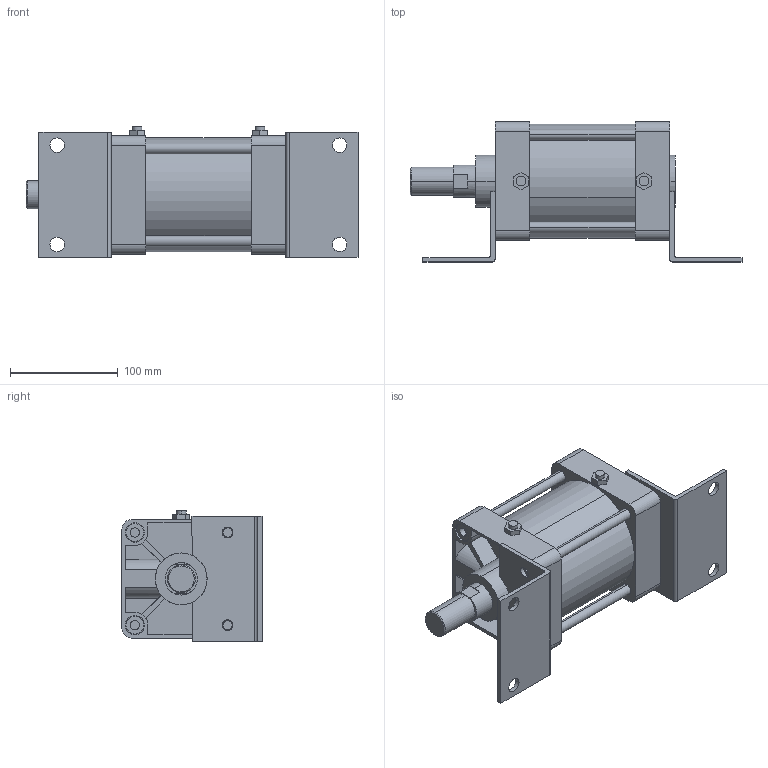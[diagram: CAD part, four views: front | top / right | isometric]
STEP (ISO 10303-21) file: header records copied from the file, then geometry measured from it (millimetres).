
FILE_DESCRIPTION (( 'STEP AP203' ), '1' );
FILE_NAME ('KG2-100-50-L.STEP', '2016-04-01T08:23:29', ( '' ), ( '' ), 'SwSTEP 2.0', 'SolidWorks 2014', '' );
FILE_SCHEMA (( 'CONFIG_CONTROL_DESIGN' ));
Length unit declared in the file: millimetre
Products named in the file (7): KGLH2-100-50; K-100-L; KG2-100-After; KG2-100-50-L
Assembly tree (17 placements, depth 2):
  KG2-100-50-L
    KG2-100-After
    KGLH2-100-50
    (unnamed)
    (unnamed)  x4
    (unnamed)  x8
    K-100-L  x2
Bounding box: 308 x 130 x 121.3 mm (x, y, z)
Volume: 1606670.8 mm3; surface area: 266214.8 mm2
Topology: 17 solids, 17 shells, 345 faces, 825 edges, 530 vertices
Faces by surface type: plane 150, cylinder 137, torus 32, cone 26
Entity records: 8153 total; most frequent: CARTESIAN_POINT 1300, DIRECTION 1291, ORIENTED_EDGE 1162, EDGE_CURVE 581, AXIS2_PLACEMENT_3D 477, VERTEX_POINT 384, LINE 337, VECTOR 337
